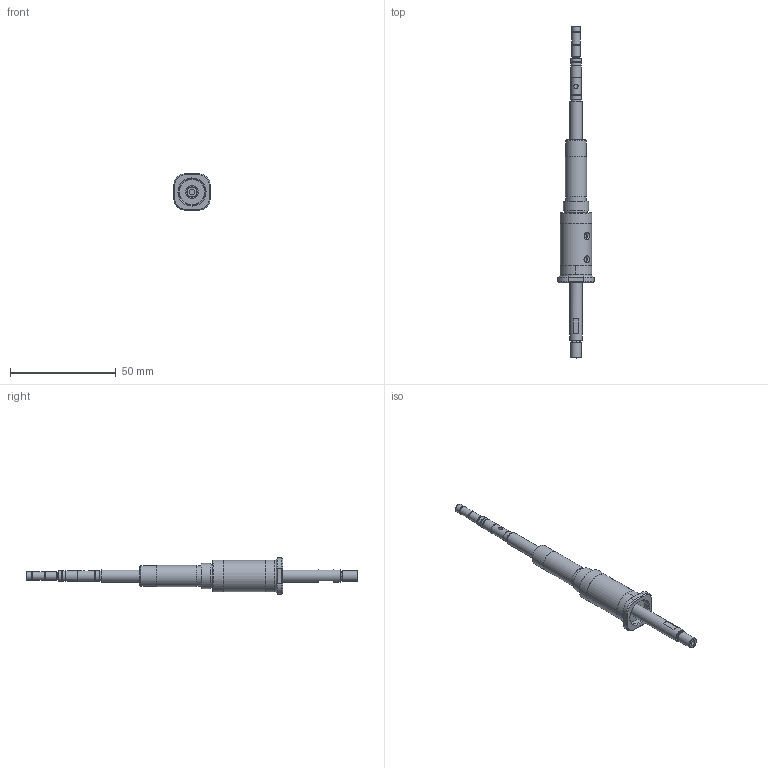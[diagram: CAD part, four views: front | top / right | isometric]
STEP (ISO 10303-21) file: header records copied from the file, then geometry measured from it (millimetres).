
FILE_DESCRIPTION(/* description */ (''),/* implementation_level */ '2;1');
FILE_NAME(/* name */ 'CR06-03 6mm2槽花键组件.stp',/* time_stamp */ '2025-02-28T16:29:43+08:00',/* author */ (''),/* organization */ (''),/* preprocessor_version */ 'ST-DEVELOPER v16.7',/* originating_system */ 'SIEMENS PLM Software NX 12.0',/* authorisation */ '');
FILE_SCHEMA (('AUTOMOTIVE_DESIGN { 1 0 10303 214 3 1 1 1 }'));
Length unit declared in the file: millimetre
Products named in the file (1): 6-2
Bounding box: 17.1 x 157 x 17.1 mm (x, y, z)
Volume: 11139.5 mm3; surface area: 7406.9 mm2
Topology: 2 solids, 3 shells, 113 faces, 222 edges, 145 vertices
Faces by surface type: plane 47, cylinder 44, cone 20, bspline 2
Full cylindrical faces by diameter (mm): 2 x4, 2.5 x1, 3.6 x3, 4 x3, 4.6 x3, 4.8 x2, 5 x5, 6 x3, 8 x2, 9.5 x1, 9.9 x1, 10 x1, 10.5 x1, 12 x2, 12.3 x1, 14.7 x2, 15 x1
Entity records: 3024 total; most frequent: CARTESIAN_POINT 932, DIRECTION 462, ORIENTED_EDGE 290, AXIS2_PLACEMENT_3D 212, EDGE_LOOP 202, FACE_BOUND 172, EDGE_CURVE 145, VERTEX_POINT 123
